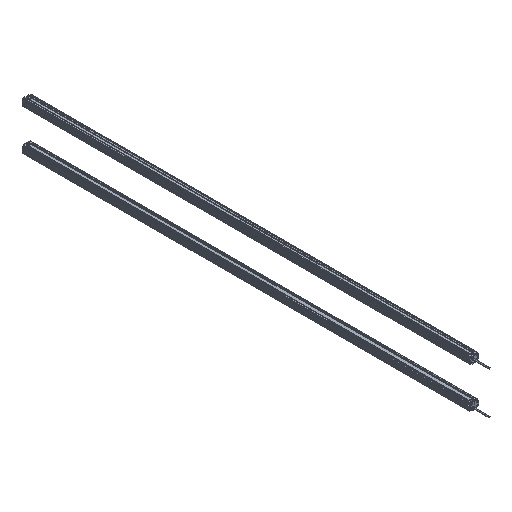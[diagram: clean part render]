
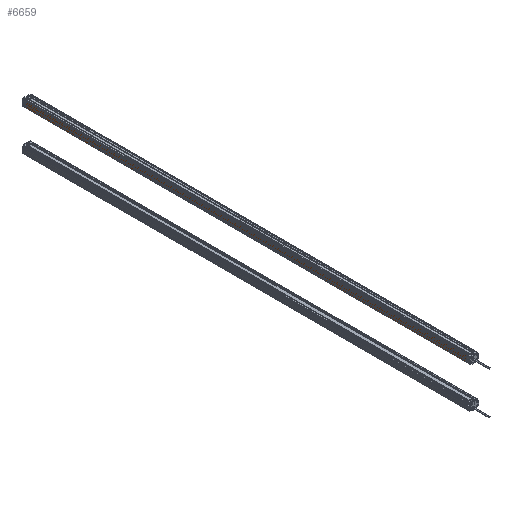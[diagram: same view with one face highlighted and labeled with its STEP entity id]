
A CAD part, isometric view. The second image highlights one B-rep face of the part: STEP entity #6659.
In plain terms, the highlighted planar face has unit normal (-1, 0, 0) as drawn and (1, 0, 0) by its records, which use the part's own axes.
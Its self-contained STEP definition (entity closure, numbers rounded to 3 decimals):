
#420 = LINE ( 'NONE', #10025, #4642 ) ;
#872 = CARTESIAN_POINT ( 'NONE',  ( 12.5, -1320., 8.293 ) ) ;
#1159 = CARTESIAN_POINT ( 'NONE',  ( 12.5, -1320., 8.293 ) ) ;
#1441 = EDGE_CURVE ( 'NONE', #5847, #8095, #420, .T. ) ;
#1486 = VERTEX_POINT ( 'NONE', #9280 ) ;
#2181 = ORIENTED_EDGE ( 'NONE', *, *, #5273, .T. ) ;
#2733 = CARTESIAN_POINT ( 'NONE',  ( 12.5, 0., 8.293 ) ) ;
#2951 = DIRECTION ( 'NONE',  ( 0., 0., -1. ) ) ;
#3082 = EDGE_CURVE ( 'NONE', #1486, #8095, #7628, .T. ) ;
#3360 = LINE ( 'NONE', #872, #3925 ) ;
#3866 = CARTESIAN_POINT ( 'NONE',  ( 12.5, 0., -9.2 ) ) ;
#3925 = VECTOR ( 'NONE', #5939, 1000. ) ;
#4642 = VECTOR ( 'NONE', #8408, 1000. ) ;
#4766 = CARTESIAN_POINT ( 'NONE',  ( 12.5, -1320., 8.293 ) ) ;
#4913 = VECTOR ( 'NONE', #2951, 1000. ) ;
#5273 = EDGE_CURVE ( 'NONE', #7120, #5847, #8245, .T. ) ;
#5494 = EDGE_LOOP ( 'NONE', ( #8655, #8953, #2181, #7121 ) ) ;
#5782 = EDGE_CURVE ( 'NONE', #7120, #1486, #3360, .T. ) ;
#5847 = VERTEX_POINT ( 'NONE', #7767 ) ;
#5939 = DIRECTION ( 'NONE',  ( 0., 1., 0. ) ) ;
#6008 = VECTOR ( 'NONE', #6228, 1000. ) ;
#6228 = DIRECTION ( 'NONE',  ( 0., 0., -1. ) ) ;
#6363 = DIRECTION ( 'NONE',  ( 0., 0., -1. ) ) ;
#6659 = ADVANCED_FACE ( 'NONE', ( #7408 ), #8799, .T. ) ;
#7120 = VERTEX_POINT ( 'NONE', #1159 ) ;
#7121 = ORIENTED_EDGE ( 'NONE', *, *, #1441, .T. ) ;
#7170 = DIRECTION ( 'NONE',  ( 1., 0., 0. ) ) ;
#7408 = FACE_OUTER_BOUND ( 'NONE', #5494, .T. ) ;
#7628 = LINE ( 'NONE', #2733, #4913 ) ;
#7737 = AXIS2_PLACEMENT_3D ( 'NONE', #4766, #7170, #6363 ) ;
#7767 = CARTESIAN_POINT ( 'NONE',  ( 12.5, -1320., -9.2 ) ) ;
#7850 = CARTESIAN_POINT ( 'NONE',  ( 12.5, -1320., 8.293 ) ) ;
#8095 = VERTEX_POINT ( 'NONE', #3866 ) ;
#8245 = LINE ( 'NONE', #7850, #6008 ) ;
#8408 = DIRECTION ( 'NONE',  ( 0., 1., 0. ) ) ;
#8655 = ORIENTED_EDGE ( 'NONE', *, *, #3082, .F. ) ;
#8799 = PLANE ( 'NONE',  #7737 ) ;
#8953 = ORIENTED_EDGE ( 'NONE', *, *, #5782, .F. ) ;
#9280 = CARTESIAN_POINT ( 'NONE',  ( 12.5, 0., 8.293 ) ) ;
#10025 = CARTESIAN_POINT ( 'NONE',  ( 12.5, -1320., -9.2 ) ) ;
